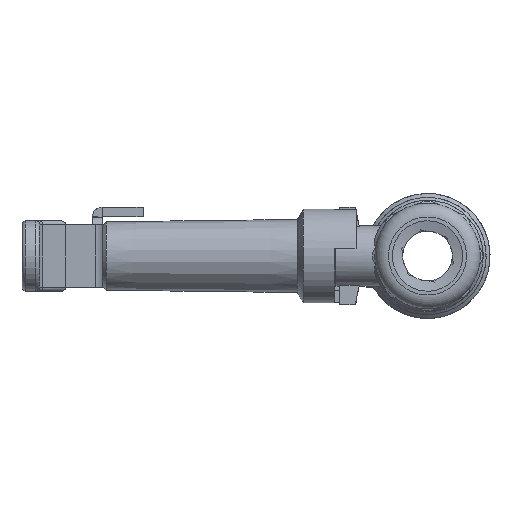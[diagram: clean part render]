
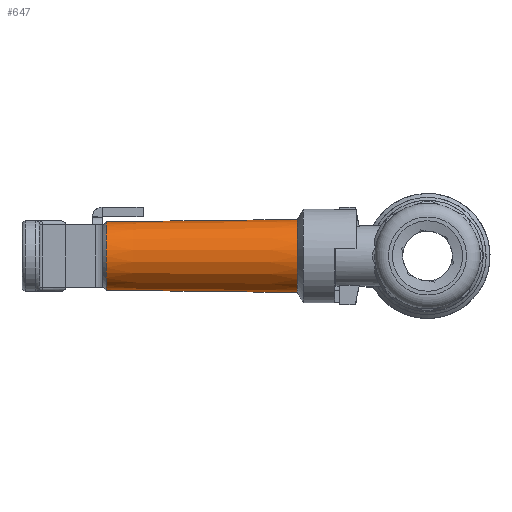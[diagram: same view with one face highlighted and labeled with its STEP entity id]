
A CAD part, left-side view. The second image highlights one B-rep face of the part: STEP entity #647.
In plain terms, the highlighted conical face has half-angle 0.688 degrees and reference radius 9.291 mm.
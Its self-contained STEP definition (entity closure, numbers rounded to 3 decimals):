
#616=CARTESIAN_POINT('',(0.0,82.217,-8.733));
#617=VERTEX_POINT('',#616);
#618=CARTESIAN_POINT('',(0.,82.217,0.029));
#619=DIRECTION('',(0.0,-1.0,0.0));
#620=DIRECTION('',(0.0,0.0,-1.0));
#621=AXIS2_PLACEMENT_3D('',#618,#619,#620);
#622=CIRCLE('',#621,8.762);
#623=EDGE_CURVE('',#617,#617,#622,.T.);
#628=CARTESIAN_POINT('',(0.,38.131,0.029));
#629=DIRECTION('',(0.,-1.0,0.));
#630=DIRECTION('',(-1.0,0.0,0.0));
#631=AXIS2_PLACEMENT_3D('',#628,#629,#630);
#632=CONICAL_SURFACE('',#631,9.291,0.688);
#633=ORIENTED_EDGE('',*,*,#623,.T.);
#634=EDGE_LOOP('',(#633));
#635=FACE_OUTER_BOUND('',#634,.T.);
#636=CARTESIAN_POINT('',(0.0,33.233,-9.321));
#637=VERTEX_POINT('',#636);
#638=CARTESIAN_POINT('',(0.,33.233,0.029));
#639=DIRECTION('',(0.0,-1.0,0.0));
#640=DIRECTION('',(0.0,0.0,-1.0));
#641=AXIS2_PLACEMENT_3D('',#638,#639,#640);
#642=CIRCLE('',#641,9.35);
#643=EDGE_CURVE('',#637,#637,#642,.T.);
#644=ORIENTED_EDGE('',*,*,#643,.F.);
#645=EDGE_LOOP('',(#644));
#646=FACE_BOUND('',#645,.T.);
#647=ADVANCED_FACE('',(#635,#646),#632,.T.);
